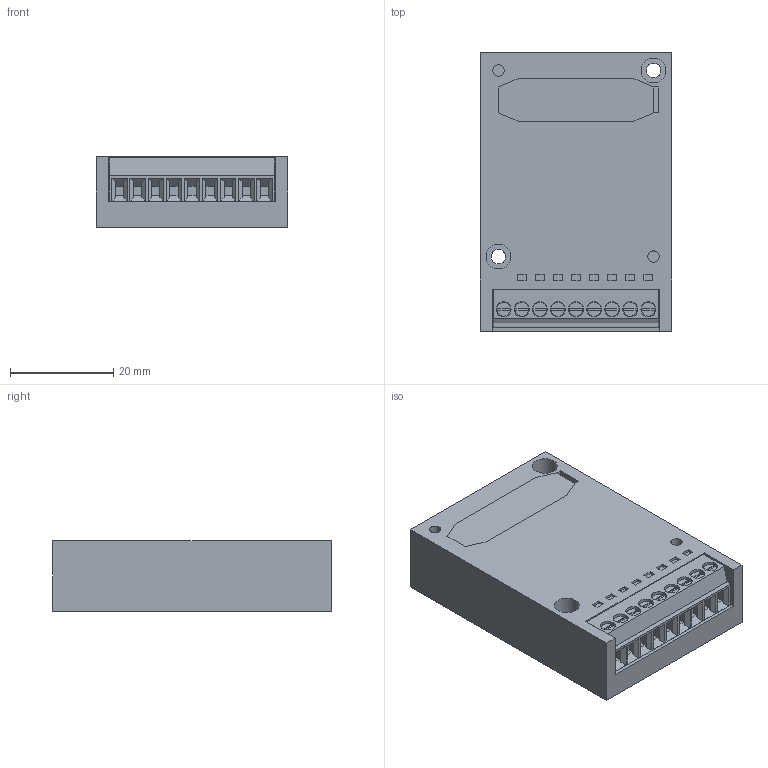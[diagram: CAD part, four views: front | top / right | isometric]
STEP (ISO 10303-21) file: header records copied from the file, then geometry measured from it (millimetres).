
FILE_DESCRIPTION (( 'STEP AP214' ), '1' );
FILE_NAME ('afpx-in8.step', '2009-08-28T01:51:08', ( '' ), ( 'PanasonicElectricWorks' ), '', '', '' );
FILE_SCHEMA (( 'AUTOMOTIVE_DESIGN' ));
Length unit declared in the file: millimetre
Products named in the file (1): afpx-in8
Bounding box: 37 x 53.8 x 13.6 mm (x, y, z)
Volume: 19202.6 mm3; surface area: 9799.4 mm2
Topology: 2 solids, 2 shells, 317 faces, 801 edges, 534 vertices
Faces by surface type: plane 265, cylinder 52
Entity records: 12982 total; most frequent: CARTESIAN_POINT 1653, ORIENTED_EDGE 1602, DIRECTION 1577, EDGE_CURVE 801, VECTOR 661, LINE 661, VERTEX_POINT 534, AXIS2_PLACEMENT_3D 458
